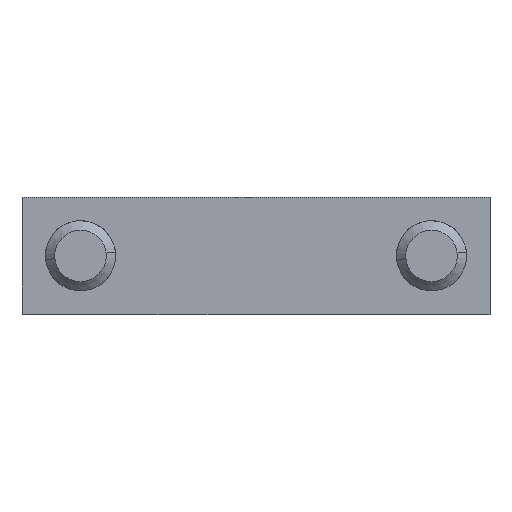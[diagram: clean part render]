
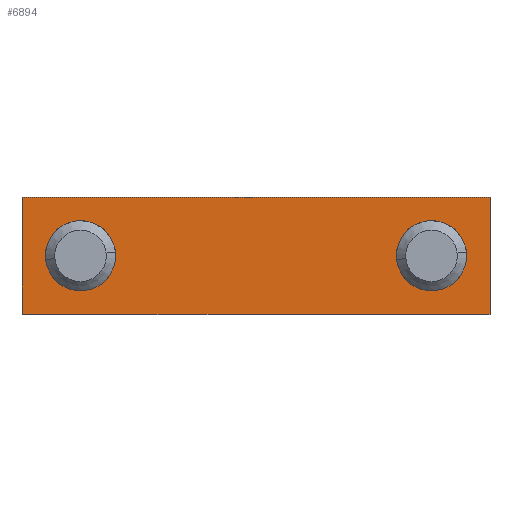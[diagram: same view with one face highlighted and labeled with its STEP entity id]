
A CAD part, top view. The second image highlights one B-rep face of the part: STEP entity #6894.
In plain terms, the highlighted planar face has unit normal (0, 0, 1).
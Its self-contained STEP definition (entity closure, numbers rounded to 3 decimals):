
#32 = EDGE_CURVE ( 'NONE', #334, #235, #4281, .T. ) ;
#235 = VERTEX_POINT ( 'NONE', #15862 ) ;
#281 = CARTESIAN_POINT ( 'NONE',  ( -34.377, 33.483, 12.5 ) ) ;
#334 = VERTEX_POINT ( 'NONE', #12625 ) ;
#1357 = VERTEX_POINT ( 'NONE', #10909 ) ;
#1422 = EDGE_CURVE ( 'NONE', #2436, #11567, #10512, .T. ) ;
#1571 = DIRECTION ( 'NONE',  ( 0., 0., 1. ) ) ;
#1813 = DIRECTION ( 'NONE',  ( 0., 0., 1. ) ) ;
#1887 = DIRECTION ( 'NONE',  ( 0., 0., 1. ) ) ;
#1938 = CIRCLE ( 'NONE', #3640, 3. ) ;
#1973 = ORIENTED_EDGE ( 'NONE', *, *, #7401, .F. ) ;
#2382 = CARTESIAN_POINT ( 'NONE',  ( -74.377, 28.483, 12.5 ) ) ;
#2436 = VERTEX_POINT ( 'NONE', #4436 ) ;
#2800 = EDGE_CURVE ( 'NONE', #12888, #10381, #1938, .T. ) ;
#2841 = AXIS2_PLACEMENT_3D ( 'NONE', #4514, #13973, #5886 ) ;
#2920 = AXIS2_PLACEMENT_3D ( 'NONE', #10007, #1887, #11344 ) ;
#3033 = CARTESIAN_POINT ( 'NONE',  ( -74.377, 33.483, 12.5 ) ) ;
#3123 = CARTESIAN_POINT ( 'NONE',  ( -69.377, 30.483, 12.5 ) ) ;
#3330 = LINE ( 'NONE', #11033, #13285 ) ;
#3640 = AXIS2_PLACEMENT_3D ( 'NONE', #9933, #1813, #11262 ) ;
#4281 = LINE ( 'NONE', #281, #7919 ) ;
#4358 = DIRECTION ( 'NONE',  ( 0., 1., 0. ) ) ;
#4436 = CARTESIAN_POINT ( 'NONE',  ( -69.377, 36.483, 12.5 ) ) ;
#4514 = CARTESIAN_POINT ( 'NONE',  ( -34.377, 28.483, 12.5 ) ) ;
#4527 = EDGE_CURVE ( 'NONE', #235, #14684, #3330, .T. ) ;
#4590 = VECTOR ( 'NONE', #4358, 1000. ) ;
#4952 = EDGE_LOOP ( 'NONE', ( #1973, #9318 ) ) ;
#5825 = PLANE ( 'NONE',  #2841 ) ;
#5886 = DIRECTION ( 'NONE',  ( -1., 0., 0. ) ) ;
#5918 = ORIENTED_EDGE ( 'NONE', *, *, #11584, .F. ) ;
#6072 = ORIENTED_EDGE ( 'NONE', *, *, #7474, .F. ) ;
#6318 = CIRCLE ( 'NONE', #16998, 3. ) ;
#6894 = ADVANCED_FACE ( 'NONE', ( #8903, #11193, #7639 ), #5825, .F. ) ;
#7401 = EDGE_CURVE ( 'NONE', #10381, #12888, #6318, .T. ) ;
#7474 = EDGE_CURVE ( 'NONE', #14684, #1357, #8215, .T. ) ;
#7639 = FACE_OUTER_BOUND ( 'NONE', #8028, .T. ) ;
#7919 = VECTOR ( 'NONE', #14948, 1000. ) ;
#8028 = EDGE_LOOP ( 'NONE', ( #11214, #6072, #12808, #10662 ) ) ;
#8207 = CIRCLE ( 'NONE', #2920, 3. ) ;
#8215 = LINE ( 'NONE', #3033, #4590 ) ;
#8903 = FACE_BOUND ( 'NONE', #4952, .T. ) ;
#9235 = VECTOR ( 'NONE', #15088, 1000. ) ;
#9318 = ORIENTED_EDGE ( 'NONE', *, *, #2800, .F. ) ;
#9477 = ORIENTED_EDGE ( 'NONE', *, *, #1422, .F. ) ;
#9501 = CARTESIAN_POINT ( 'NONE',  ( -39.377, 30.483, 12.5 ) ) ;
#9693 = CARTESIAN_POINT ( 'NONE',  ( -39.377, 33.483, 12.5 ) ) ;
#9933 = CARTESIAN_POINT ( 'NONE',  ( -39.377, 33.483, 12.5 ) ) ;
#9967 = CARTESIAN_POINT ( 'NONE',  ( -39.377, 36.483, 12.5 ) ) ;
#10007 = CARTESIAN_POINT ( 'NONE',  ( -69.377, 33.483, 12.5 ) ) ;
#10381 = VERTEX_POINT ( 'NONE', #9501 ) ;
#10512 = CIRCLE ( 'NONE', #15027, 3. ) ;
#10662 = ORIENTED_EDGE ( 'NONE', *, *, #32, .F. ) ;
#10793 = EDGE_LOOP ( 'NONE', ( #5918, #9477 ) ) ;
#10909 = CARTESIAN_POINT ( 'NONE',  ( -74.377, 38.483, 12.5 ) ) ;
#11012 = DIRECTION ( 'NONE',  ( 0., -1., 0. ) ) ;
#11033 = CARTESIAN_POINT ( 'NONE',  ( -54.377, 28.483, 12.5 ) ) ;
#11193 = FACE_BOUND ( 'NONE', #10793, .T. ) ;
#11214 = ORIENTED_EDGE ( 'NONE', *, *, #12037, .F. ) ;
#11262 = DIRECTION ( 'NONE',  ( 0., -1., 0. ) ) ;
#11344 = DIRECTION ( 'NONE',  ( 0., -1., 0. ) ) ;
#11567 = VERTEX_POINT ( 'NONE', #3123 ) ;
#11584 = EDGE_CURVE ( 'NONE', #11567, #2436, #8207, .T. ) ;
#11822 = DIRECTION ( 'NONE',  ( 0., 0., 1. ) ) ;
#12037 = EDGE_CURVE ( 'NONE', #1357, #334, #16370, .T. ) ;
#12199 = CARTESIAN_POINT ( 'NONE',  ( -69.377, 33.483, 12.5 ) ) ;
#12625 = CARTESIAN_POINT ( 'NONE',  ( -34.377, 38.483, 12.5 ) ) ;
#12808 = ORIENTED_EDGE ( 'NONE', *, *, #4527, .F. ) ;
#12888 = VERTEX_POINT ( 'NONE', #9967 ) ;
#13285 = VECTOR ( 'NONE', #15098, 1000. ) ;
#13740 = CARTESIAN_POINT ( 'NONE',  ( -54.377, 38.483, 12.5 ) ) ;
#13973 = DIRECTION ( 'NONE',  ( 0., 0., -1. ) ) ;
#14684 = VERTEX_POINT ( 'NONE', #2382 ) ;
#14948 = DIRECTION ( 'NONE',  ( 0., -1., 0. ) ) ;
#15027 = AXIS2_PLACEMENT_3D ( 'NONE', #12199, #11822, #15897 ) ;
#15088 = DIRECTION ( 'NONE',  ( 1., 0., 0. ) ) ;
#15098 = DIRECTION ( 'NONE',  ( -1., 0., 0. ) ) ;
#15862 = CARTESIAN_POINT ( 'NONE',  ( -34.377, 28.483, 12.5 ) ) ;
#15897 = DIRECTION ( 'NONE',  ( 0., -1., 0. ) ) ;
#16370 = LINE ( 'NONE', #13740, #9235 ) ;
#16998 = AXIS2_PLACEMENT_3D ( 'NONE', #9693, #1571, #11012 ) ;
